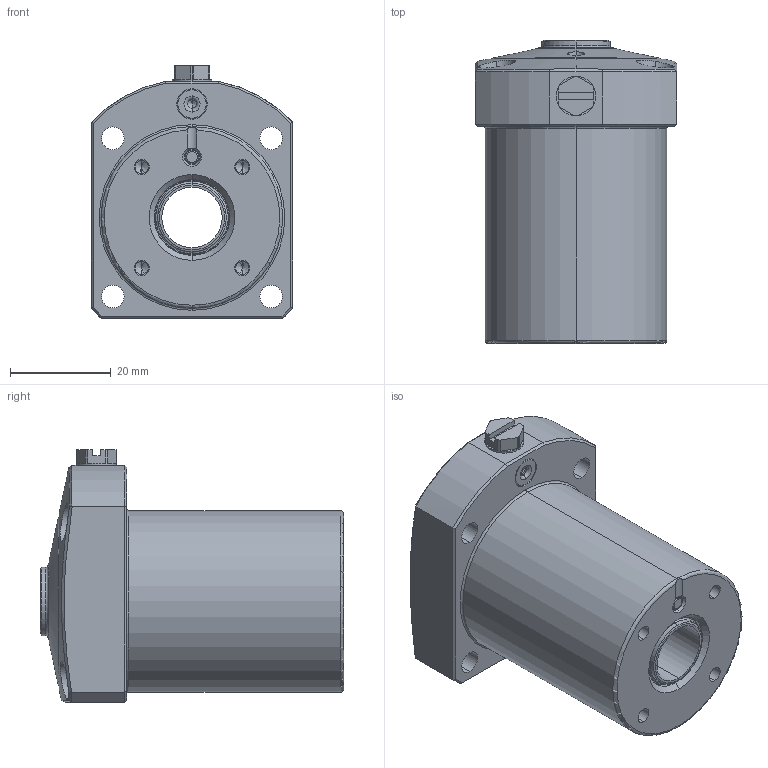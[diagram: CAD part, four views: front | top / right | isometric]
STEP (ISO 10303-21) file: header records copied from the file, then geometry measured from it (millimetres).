
FILE_DESCRIPTION(/* description */ (''),/* implementation_level */ '2;1');
FILE_NAME(/* name */ 'FNE36-C.stp',/* time_stamp */ '2025-10-27T14:04:00+08:00',/* author */ (''),/* organization */ (''),/* preprocessor_version */ 'ST-DEVELOPER v16.7',/* originating_system */ 'SIEMENS PLM Software NX 12.0',/* authorisation */ '');
FILE_SCHEMA (('AUTOMOTIVE_DESIGN { 1 0 10303 214 3 1 1 1 }'));
Length unit declared in the file: millimetre
Products named in the file (5): FNE-36-04; FNE-36-01; FNE-36-02; FNE-36-03; WNA1003-G-D_step
Assembly tree (4 placements, depth 2):
  WNA1003-G-D_step
    FNE-36-03
    FNE-36-02
    FNE-36-01
    FNE-36-04
Bounding box: 40 x 60.1 x 50.1 mm (x, y, z)
Volume: 59765.2 mm3; surface area: 14123.4 mm2
Topology: 4 solids, 4 shells, 195 faces, 446 edges, 263 vertices
Faces by surface type: cylinder 69, plane 50, cone 48, torus 22, bspline 6
Entity records: 6491 total; most frequent: CARTESIAN_POINT 1980, DIRECTION 981, ORIENTED_EDGE 864, EDGE_CURVE 432, AXIS2_PLACEMENT_3D 402, VERTEX_POINT 263, EDGE_LOOP 225, CIRCLE 208
